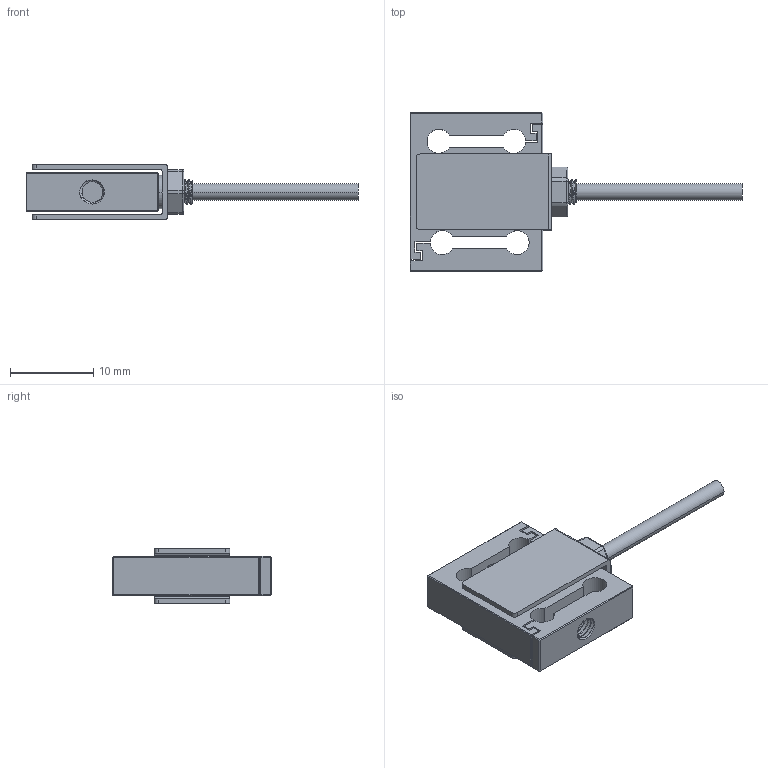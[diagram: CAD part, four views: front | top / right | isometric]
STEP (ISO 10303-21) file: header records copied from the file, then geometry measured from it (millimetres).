
FILE_DESCRIPTION (( 'STEP AP203' ), '1' );
FILE_NAME ('LCSM-5N.STEP', '2024-12-31T00:16:43', ( '' ), ( '' ), 'SwSTEP 2.0', 'SolidWorks 2019', '' );
FILE_SCHEMA (( 'CONFIG_CONTROL_DESIGN' ));
Length unit declared in the file: millimetre
Products named in the file (1): LCSM-5N
Bounding box: 40 x 19.1 x 6.7 mm (x, y, z)
Volume: 1514.3 mm3; surface area: 2170 mm2
Topology: 1 solids, 1 shells, 160 faces, 414 edges, 262 vertices
Faces by surface type: plane 77, cylinder 61, bspline 10, cone 6, torus 6
Entity records: 10312 total; most frequent: CARTESIAN_POINT 6545, ORIENTED_EDGE 828, DIRECTION 702, EDGE_CURVE 414, VERTEX_POINT 262, LINE 248, VECTOR 248, AXIS2_PLACEMENT_3D 227
